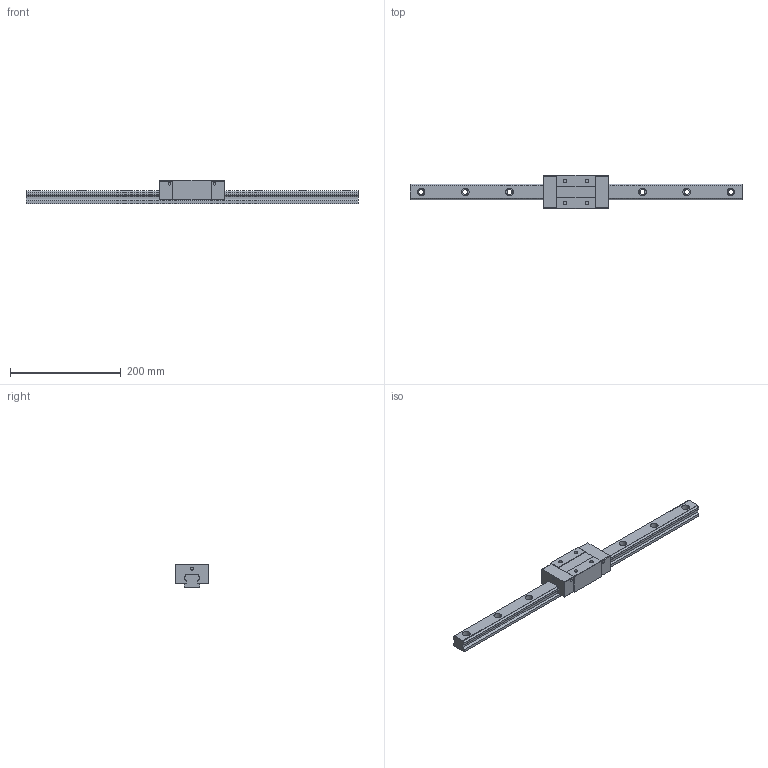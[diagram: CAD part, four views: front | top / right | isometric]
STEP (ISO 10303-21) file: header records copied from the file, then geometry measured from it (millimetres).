
FILE_DESCRIPTION (( 'STEP AP203' ), '1' );
FILE_NAME ('TRS30VN-WZ.STEP', '2024-06-12T07:16:46', ( '' ), ( '' ), 'SwSTEP 2.0', 'SolidWorks 2022', '' );
FILE_SCHEMA (( 'CONFIG_CONTROL_DESIGN' ));
Length unit declared in the file: millimetre
Products named in the file (1): TRS30VN-WZ
Bounding box: 600 x 60 x 42 mm (x, y, z)
Volume: 514382.1 mm3; surface area: 100888.7 mm2
Topology: 2 solids, 2 shells, 178 faces, 464 edges, 308 vertices
Faces by surface type: plane 90, cylinder 88
Entity records: 5619 total; most frequent: DIRECTION 998, CARTESIAN_POINT 951, ORIENTED_EDGE 928, EDGE_CURVE 464, AXIS2_PLACEMENT_3D 355, VERTEX_POINT 308, LINE 288, VECTOR 288
